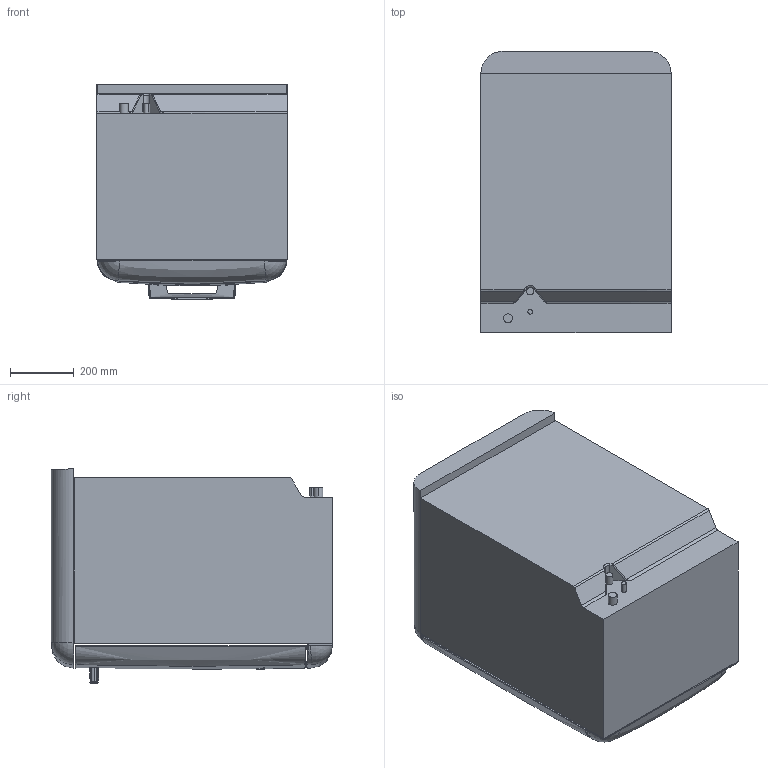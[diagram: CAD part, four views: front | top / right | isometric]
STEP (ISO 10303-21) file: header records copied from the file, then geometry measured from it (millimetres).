
FILE_DESCRIPTION (( 'STEP AP214' ), '1' );
FILE_NAME ('LVS Bombina.STEP', '2023-03-30T09:45:11', ( '' ), ( '' ), 'SwSTEP 2.0', 'SolidWorks 2021', '' );
FILE_SCHEMA (( 'AUTOMOTIVE_DESIGN' ));
Length unit declared in the file: millimetre
Products named in the file (1): LVS Bombina
Bounding box: 598 x 885 x 675 mm (x, y, z)
Volume: 304547699.8 mm3; surface area: 4460287.4 mm2
Topology: 9 solids, 9 shells, 320 faces, 839 edges, 541 vertices
Faces by surface type: bspline 127, plane 98, cylinder 67, torus 17, sphere 11
Entity records: 13104 total; most frequent: CARTESIAN_POINT 6298, ORIENTED_EDGE 1670, DIRECTION 997, EDGE_CURVE 835, VERTEX_POINT 541, B_SPLINE_CURVE_WITH_KNOTS 363, AXIS2_PLACEMENT_3D 358, EDGE_LOOP 328
